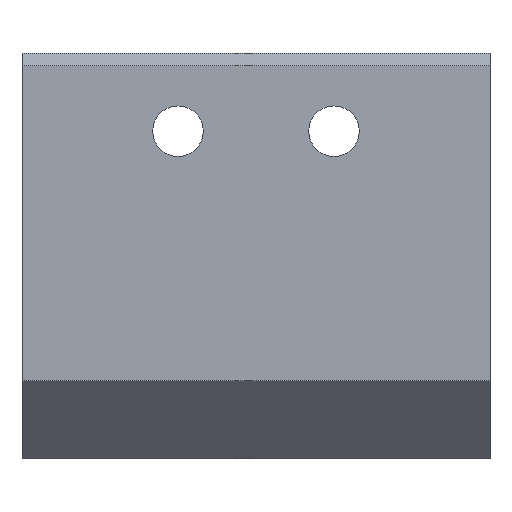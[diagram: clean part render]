
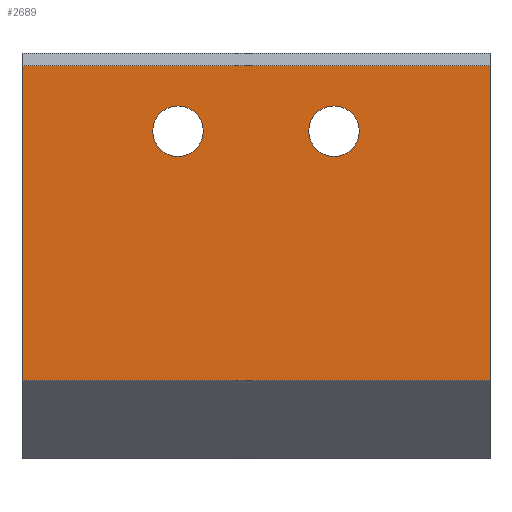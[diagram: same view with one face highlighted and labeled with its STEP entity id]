
A CAD part, front view. The second image highlights one B-rep face of the part: STEP entity #2689.
In plain terms, the highlighted planar face has unit normal (0, -1, 0).
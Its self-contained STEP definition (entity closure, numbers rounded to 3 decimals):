
#1680=CARTESIAN_POINT('',(30.0,-10.,15.2));
#1681=VERTEX_POINT('',#1680);
#1698=CARTESIAN_POINT('',(0.0,-10.,15.2));
#1699=VERTEX_POINT('',#1698);
#1706=CARTESIAN_POINT('',(0.0,-10.,15.2));
#1707=DIRECTION('',(1.0,0.0,0.0));
#1708=VECTOR('',#1707,30.0);
#1709=LINE('',#1706,#1708);
#1710=EDGE_CURVE('',#1699,#1681,#1709,.T.);
#1761=CARTESIAN_POINT('',(0.0,-10.0,-5.));
#1762=VERTEX_POINT('',#1761);
#1769=CARTESIAN_POINT('',(0.0,-10.0,-5.));
#1770=DIRECTION('',(0.0,0.0,1.0));
#1771=VECTOR('',#1770,20.2);
#1772=LINE('',#1769,#1771);
#1773=EDGE_CURVE('',#1762,#1699,#1772,.T.);
#1850=CARTESIAN_POINT('',(30.0,-10.0,-5.));
#1851=VERTEX_POINT('',#1850);
#1858=CARTESIAN_POINT('',(30.0,-10.0,-5.));
#1859=DIRECTION('',(-1.0,0.0,0.0));
#1860=VECTOR('',#1859,30.0);
#1861=LINE('',#1858,#1860);
#1862=EDGE_CURVE('',#1851,#1762,#1861,.T.);
#2478=CARTESIAN_POINT('',(21.621,-10.0,11.0));
#2479=VERTEX_POINT('',#2478);
#2480=CARTESIAN_POINT('',(20.0,-10.0,11.0));
#2481=DIRECTION('',(0.0,1.0,0.0));
#2482=DIRECTION('',(-1.0,0.0,0.0));
#2483=AXIS2_PLACEMENT_3D('',#2480,#2481,#2482);
#2484=CIRCLE('',#2483,1.621);
#2485=EDGE_CURVE('',#2479,#2479,#2484,.T.);
#2588=CARTESIAN_POINT('',(11.621,-10.0,11.0));
#2589=VERTEX_POINT('',#2588);
#2590=CARTESIAN_POINT('',(10.0,-10.0,11.0));
#2591=DIRECTION('',(0.0,1.0,0.0));
#2592=DIRECTION('',(-1.0,0.0,0.0));
#2593=AXIS2_PLACEMENT_3D('',#2590,#2591,#2592);
#2594=CIRCLE('',#2593,1.621);
#2595=EDGE_CURVE('',#2589,#2589,#2594,.T.);
#2667=CARTESIAN_POINT('',(0.0,-10.,-10.));
#2668=DIRECTION('',(0.0,-1.0,0.0));
#2669=DIRECTION('',(0.0,0.0,-1.0));
#2670=AXIS2_PLACEMENT_3D('',#2667,#2668,#2669);
#2671=PLANE('',#2670);
#2672=ORIENTED_EDGE('',*,*,#1710,.F.);
#2673=ORIENTED_EDGE('',*,*,#1773,.F.);
#2674=ORIENTED_EDGE('',*,*,#1862,.F.);
#2675=CARTESIAN_POINT('',(30.0,-10.0,-5.));
#2676=DIRECTION('',(0.0,0.0,1.0));
#2677=VECTOR('',#2676,20.2);
#2678=LINE('',#2675,#2677);
#2679=EDGE_CURVE('',#1851,#1681,#2678,.T.);
#2680=ORIENTED_EDGE('',*,*,#2679,.T.);
#2681=EDGE_LOOP('',(#2672,#2673,#2674,#2680));
#2682=FACE_OUTER_BOUND('',#2681,.T.);
#2683=ORIENTED_EDGE('',*,*,#2485,.T.);
#2684=EDGE_LOOP('',(#2683));
#2685=FACE_BOUND('',#2684,.T.);
#2686=ORIENTED_EDGE('',*,*,#2595,.T.);
#2687=EDGE_LOOP('',(#2686));
#2688=FACE_BOUND('',#2687,.T.);
#2689=ADVANCED_FACE('',(#2682,#2685,#2688),#2671,.T.);
